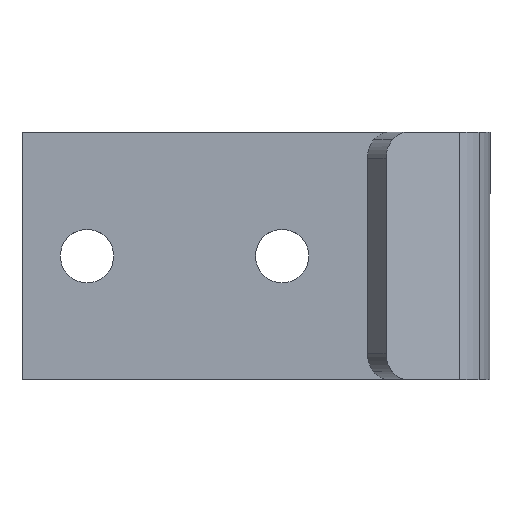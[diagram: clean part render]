
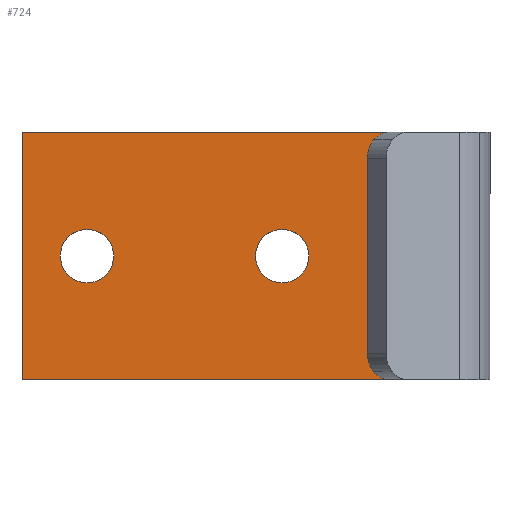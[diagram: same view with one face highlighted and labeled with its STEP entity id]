
A CAD part, top view. The second image highlights one B-rep face of the part: STEP entity #724.
In plain terms, the highlighted planar face has unit normal (0, 0, 1).
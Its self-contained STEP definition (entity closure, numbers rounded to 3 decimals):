
#193=CARTESIAN_POINT('',(-9.5,10.5,1.25));
#194=VERTEX_POINT('',#193);
#202=CARTESIAN_POINT('',(9.5,10.5,1.25));
#203=VERTEX_POINT('',#202);
#204=CARTESIAN_POINT('',(9.5,10.5,1.25));
#205=DIRECTION('',(-1.0,0.0,0.0));
#206=VECTOR('',#205,19.0);
#207=LINE('',#204,#206);
#208=EDGE_CURVE('',#203,#194,#207,.T.);
#227=CARTESIAN_POINT('',(2.05,-15.0,1.25));
#228=VERTEX_POINT('',#227);
#244=CARTESIAN_POINT('',(-2.05,-15.0,1.25));
#245=VERTEX_POINT('',#244);
#252=CARTESIAN_POINT('',(0.,-15.0,1.25));
#253=DIRECTION('',(0.0,0.0,-1.0));
#254=DIRECTION('',(1.0,0.0,0.0));
#255=AXIS2_PLACEMENT_3D('',#252,#253,#254);
#256=CIRCLE('',#255,2.05);
#257=EDGE_CURVE('',#228,#245,#256,.T.);
#269=CARTESIAN_POINT('',(2.05,0.0,1.25));
#270=VERTEX_POINT('',#269);
#286=CARTESIAN_POINT('',(-2.05,0.,1.25));
#287=VERTEX_POINT('',#286);
#294=CARTESIAN_POINT('',(0.,0.0,1.25));
#295=DIRECTION('',(0.0,0.0,-1.0));
#296=DIRECTION('',(1.0,0.0,0.0));
#297=AXIS2_PLACEMENT_3D('',#294,#295,#296);
#298=CIRCLE('',#297,2.05);
#299=EDGE_CURVE('',#270,#287,#298,.T.);
#534=CARTESIAN_POINT('',(-9.5,-20.0,1.25));
#535=VERTEX_POINT('',#534);
#542=CARTESIAN_POINT('',(-9.5,-20.0,1.25));
#543=DIRECTION('',(0.0,1.0,0.0));
#544=VECTOR('',#543,30.5);
#545=LINE('',#542,#544);
#546=EDGE_CURVE('',#535,#194,#545,.T.);
#573=CARTESIAN_POINT('',(0.,0.0,1.25));
#574=DIRECTION('',(0.0,0.0,-1.0));
#575=DIRECTION('',(1.0,0.0,0.0));
#576=AXIS2_PLACEMENT_3D('',#573,#574,#575);
#577=CIRCLE('',#576,2.05);
#578=EDGE_CURVE('',#287,#270,#577,.T.);
#597=CARTESIAN_POINT('',(0.,-15.0,1.25));
#598=DIRECTION('',(0.0,0.0,-1.0));
#599=DIRECTION('',(1.0,0.0,0.0));
#600=AXIS2_PLACEMENT_3D('',#597,#598,#599);
#601=CIRCLE('',#600,2.05);
#602=EDGE_CURVE('',#245,#228,#601,.T.);
#654=CARTESIAN_POINT('',(9.5,-20.0,1.25));
#655=VERTEX_POINT('',#654);
#656=CARTESIAN_POINT('',(9.5,10.5,1.25));
#657=DIRECTION('',(0.0,-1.0,0.0));
#658=VECTOR('',#657,30.5);
#659=LINE('',#656,#658);
#660=EDGE_CURVE('',#203,#655,#659,.T.);
#700=CARTESIAN_POINT('',(0.,0.0,1.25));
#701=DIRECTION('',(0.0,0.0,1.0));
#702=DIRECTION('',(1.0,0.0,0.0));
#703=AXIS2_PLACEMENT_3D('',#700,#701,#702);
#704=PLANE('',#703);
#705=ORIENTED_EDGE('',*,*,#208,.T.);
#706=ORIENTED_EDGE('',*,*,#546,.F.);
#707=CARTESIAN_POINT('',(9.5,-20.0,1.25));
#708=DIRECTION('',(-1.0,0.0,0.0));
#709=VECTOR('',#708,19.0);
#710=LINE('',#707,#709);
#711=EDGE_CURVE('',#655,#535,#710,.T.);
#712=ORIENTED_EDGE('',*,*,#711,.F.);
#713=ORIENTED_EDGE('',*,*,#660,.F.);
#714=EDGE_LOOP('',(#705,#706,#712,#713));
#715=FACE_OUTER_BOUND('',#714,.T.);
#716=ORIENTED_EDGE('',*,*,#299,.T.);
#717=ORIENTED_EDGE('',*,*,#578,.T.);
#718=EDGE_LOOP('',(#716,#717));
#719=FACE_BOUND('',#718,.T.);
#720=ORIENTED_EDGE('',*,*,#257,.T.);
#721=ORIENTED_EDGE('',*,*,#602,.T.);
#722=EDGE_LOOP('',(#720,#721));
#723=FACE_BOUND('',#722,.T.);
#724=ADVANCED_FACE('',(#715,#719,#723),#704,.T.);
